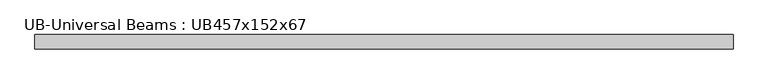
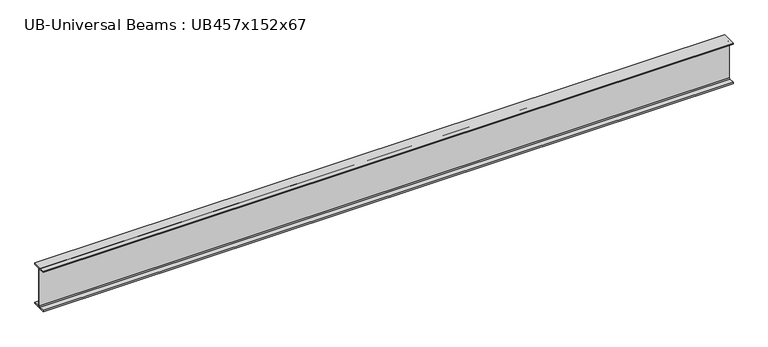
"""IFC4 building model written with IfcOpenShell, lengths in millimetres: beam geometry, UB-Universal Beams : UB457x152x67."""

from ifc_helpers import new_model, si_unit, point, frame, frame_2d, origin, place, context, project, spatial, polyline, circle_curve, trimmed, segment, composite_curve, outline, extrude, source, transform, mapped, element, save


def ub_universal_beams_ub457x152x67_9cac6dc0(model_context):
    return source(origin(), model_context, "Body", "SweptSolid", [
        extrude(outline(composite_curve([segment(polyline([(76.9, -214.0), (76.9, -229.0), (-76.9, -229.0), (-76.9, -214.0), (-14.7, -214.0)]), True, "CONTINUOUS"), segment(trimmed(circle_curve(frame_2d((-14.7, -203.8)), 10.2), [point((-14.7, -214.0))], [point((-4.5, -203.8))], True, "CARTESIAN"), True, "CONTINUOUS"), segment(polyline([(-4.5, -203.8), (-4.5, 203.8)]), True, "CONTINUOUS"), segment(trimmed(circle_curve(frame_2d((-14.7, 203.8)), 10.2), [point((-4.5, 203.8))], [point((-14.7, 214.0))], True, "CARTESIAN"), True, "CONTINUOUS"), segment(polyline([(-14.7, 214.0), (-76.9, 214.0), (-76.9, 229.0), (76.9, 229.0), (76.9, 214.0), (14.7, 214.0)]), True, "CONTINUOUS"), segment(trimmed(circle_curve(frame_2d((14.7, 203.8)), 10.2), [point((14.7, 214.0))], [point((4.5, 203.8))], True, "CARTESIAN"), True, "CONTINUOUS"), segment(polyline([(4.5, 203.8), (4.5, -203.8)]), True, "CONTINUOUS"), segment(trimmed(circle_curve(frame_2d((14.7, -203.8)), 10.2), [point((4.5, -203.8))], [point((14.7, -214.0))], True, "CARTESIAN"), True, "CONTINUOUS"), segment(polyline([(14.7, -214.0), (76.9, -214.0)]), True, "CONTINUOUS")], self_intersect=False)), frame((-3683.6, 0.0, 0.0), z_axis=(1.0, 0.0, 0.0), x_axis=(0.0, 1.0, 0.0)), (0.0, 0.0, 1.0), 7367.2),
    ])


if __name__ == "__main__":
    model = new_model("IFC4")
    model_context = context("Model", 3, world=origin())
    ifc_project = project(units=[si_unit("LENGTHUNIT", "METRE", prefix="MILLI")], contexts=[model_context])
    site = spatial("IfcSite", under=ifc_project)
    building = spatial("IfcBuilding", under=site)
    placement = place(None, origin())
    ub_universal_beams_ub457x152x67_shape = ub_universal_beams_ub457x152x67_9cac6dc0(model_context)
    element("IfcBeam", 1, ObjectType="UB-Universal Beams : UB457x152x67", at=placement, inside=building, context=model_context, shape_type="MappedRepresentation", body=[
        mapped(ub_universal_beams_ub457x152x67_shape, transform((0.0, 0.0, 0.0), x_axis=(1.0, 0.0, 0.0), y_axis=(0.0, 1.0, 0.0), z_axis=(0.0, 0.0, 1.0))),
    ])
    save(model, "model.ifc")
